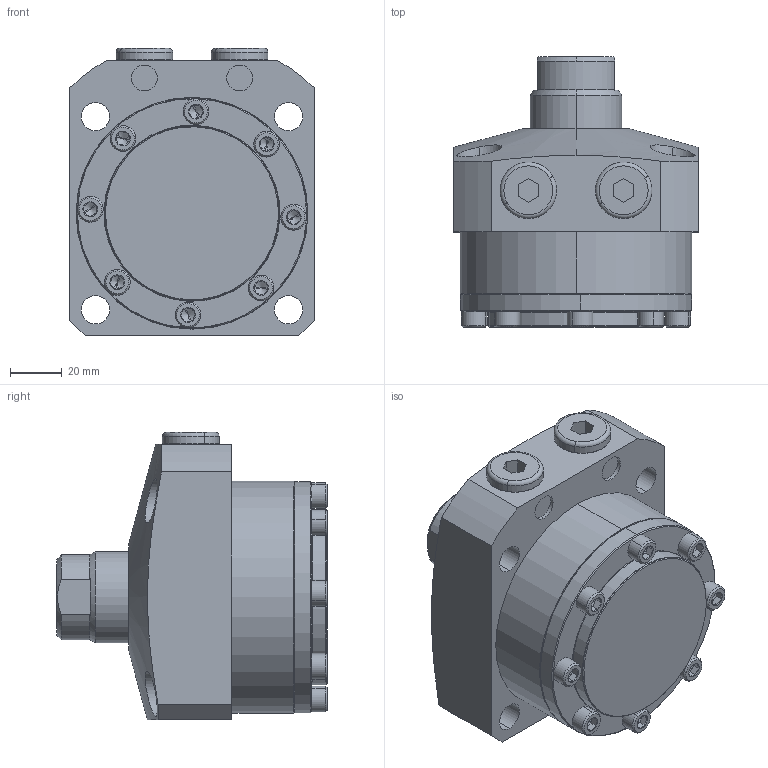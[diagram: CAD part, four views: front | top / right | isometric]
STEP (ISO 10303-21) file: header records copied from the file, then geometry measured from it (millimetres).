
FILE_DESCRIPTION (( 'STEP AP203' ), '1' );
FILE_NAME ('680900-CA-015.step', '2016-11-02T03:29:11', ( 'wxp' ), ( '' ), 'SwSTEP 2.0', 'SolidWorks 2011', '' );
FILE_SCHEMA (( 'CONFIG_CONTROL_DESIGN' ));
Length unit declared in the file: millimetre
Products named in the file (6): 680900-CA-015; 葩璃 68090-CA-15-5^680900-CA-015; 葩璃 68090-CA-15-4^680900-CA-015; 葩璃 68090-CA-15-3^680900-CA-015; 葩璃 68090-CA-15-2^680900-CA-015; 葩璃 68090-CA-15-1^680900-CA-015
Assembly tree (13 placements, depth 2):
  680900-CA-015
    葩璃 68090-CA-15-5^680900-CA-015  x2
    葩璃 68090-CA-15-3^680900-CA-015
    葩璃 68090-CA-15-4^680900-CA-015  x8
    葩璃 68090-CA-15-1^680900-CA-015
    葩璃 68090-CA-15-2^680900-CA-015
Bounding box: 95 x 105 x 111.5 mm (x, y, z)
Volume: 556006.1 mm3; surface area: 78747.1 mm2
Topology: 13 solids, 13 shells, 407 faces, 789 edges, 424 vertices
Faces by surface type: plane 168, cone 120, cylinder 103, torus 16
Entity records: 5881 total; most frequent: CARTESIAN_POINT 1276, DIRECTION 873, ORIENTED_EDGE 710, AXIS2_PLACEMENT_3D 366, EDGE_CURVE 355, VERTEX_POINT 217, EDGE_LOOP 206, CIRCLE 186
